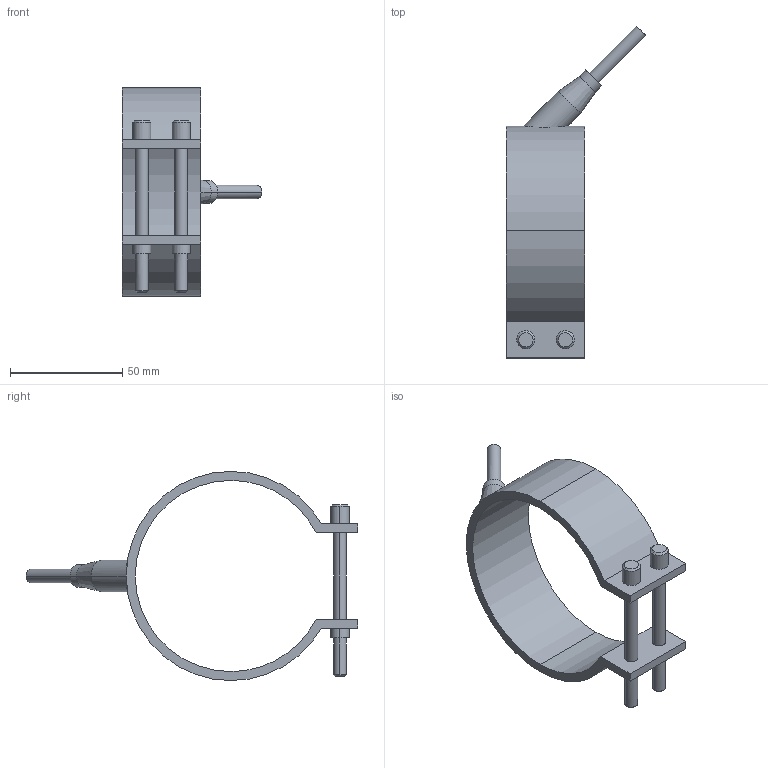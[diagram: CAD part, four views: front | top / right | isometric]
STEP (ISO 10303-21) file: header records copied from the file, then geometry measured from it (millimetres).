
FILE_DESCRIPTION(('CATIA V5 STEP Exchange'),'2;1');
FILE_NAME('C:\Users\Utente\Desktop\IO LAVORO\3D X SITO CF\X SITO\PLASTICA\RF1\29085035.stp','2021-03-29T18:05:15+00:00',('none'),('none'),'CATIA Version 5 Release 20 GA (IN-10)','CATIA V5 STEP AP203','none');
FILE_SCHEMA(('CONFIG_CONTROL_DESIGN'));
Length unit declared in the file: millimetre
Products named in the file (1): 29085035
Bounding box: 62.05 x 147.55 x 93 mm (x, y, z)
Volume: 46696.2 mm3; surface area: 25490.2 mm2
Topology: 1 solids, 1 shells, 54 faces, 123 edges, 79 vertices
Faces by surface type: cylinder 28, plane 16, cone 10
Entity records: 1746 total; most frequent: CARTESIAN_POINT 518, ORIENTED_EDGE 246, DIRECTION 211, EDGE_CURVE 123, AXIS2_PLACEMENT_3D 104, VERTEX_POINT 79, EDGE_LOOP 66, VECTOR 56
